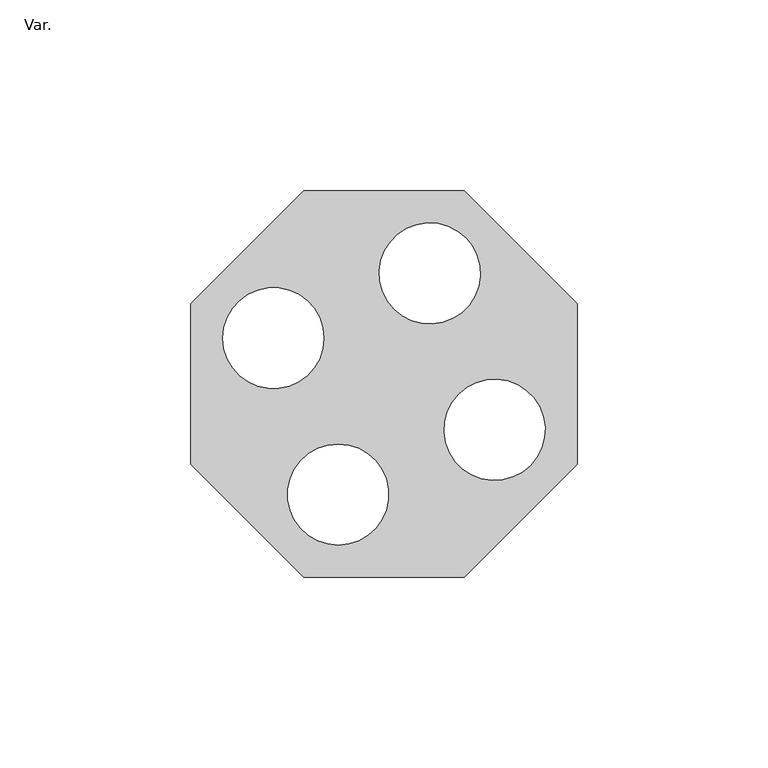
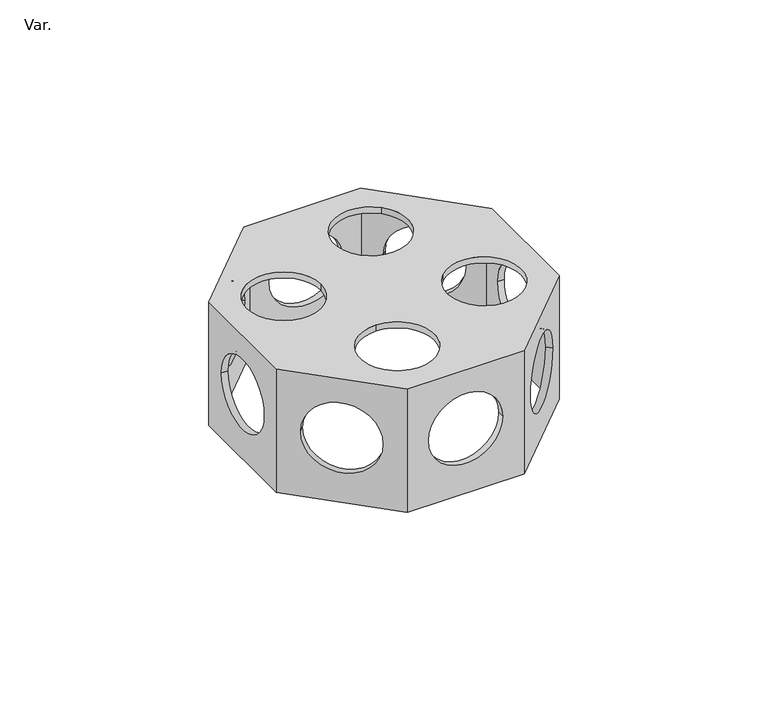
"""IFC4 building model written with IfcOpenShell, lengths in millimetres: cable carrier fitting geometry, AmancoWavin_ConduitFittings_CajaOctogonal : Var.."""

from ifc_helpers import new_model, si_unit, frame, origin, place, context, project, spatial, polyline, circle_curve, source, transform, mapped, element, save
from ifc_brep_helpers import plane_surface, revolved_surface, advanced_brep


def var_aeb41feb(model_context):
    return source(origin(), model_context, "Body", "AdvancedBrep", [
        advanced_brep(
        [(50.67, -20.9882012, 46.8), (50.67, 20.9882012, 46.8), (20.9882012, 50.67, 46.8), (-20.9882012, 50.67, 46.8), (-50.67, 20.9882012, 46.8), (-50.67, -20.9882012, 46.8), (-20.9882012, -50.67, 46.8), (20.9882012, -50.67, 46.8), (-42.2397123, 12.007932, 46.8), (-15.7397123, 12.007932, 46.8), (38.3588771, -21.3770968, 46.8), (19.6205474, -2.6387671, 46.8), (-12.007932, -42.2397123, 46.8), (-12.007932, -15.7397123, 46.8), (21.3770968, 38.3588771, 46.8), (2.6387671, 19.6205474, 46.8), (50.67, -20.9882012, 0.0), (20.9882012, -50.67, 0.0), (-20.9882012, -50.67, 0.0), (-50.67, -20.9882012, 0.0), (-50.67, 20.9882012, 0.0), (-20.9882012, 50.67, 0.0), (20.9882012, 50.67, 0.0), (50.67, 20.9882012, 0.0), (-48.37, 20.03551, 0.0), (-48.37, -20.03551, 0.0), (-20.03551, -48.37, 0.0), (20.03551, -48.37, 0.0), (48.37, -20.03551, 0.0), (48.37, 20.03551, 0.0), (20.03551, 48.37, 0.0), (-20.03551, 48.37, 0.0), (13.25, 50.67, 24.5), (-13.25, 50.67, 24.5), (-13.25, 48.37, 24.5), (13.25, 48.37, 24.5), (-13.25, -50.67, 24.5), (13.25, -50.67, 24.5), (13.25, -48.37, 24.5), (-13.25, -48.37, 24.5), (-42.2397123, 12.007932, 44.4971719), (-15.7397123, 12.007932, 44.4971719), (50.67, 13.25, 24.5), (50.67, -13.25, 24.5), (26.4599358, 45.1982655, 24.5), (45.1982655, 26.4599358, 24.5), (-45.1982655, 26.4599358, 24.5), (-26.4599358, 45.1982655, 24.5), (-50.67, -13.25, 24.5), (-50.67, 13.25, 24.5), (-26.4599358, -45.1982655, 24.5), (-45.1982655, -26.4599358, 24.5), (45.1982655, -26.4599358, 24.5), (26.4599358, -45.1982655, 24.5), (38.3588771, -21.3770968, 44.4971719), (19.6205474, -2.6387671, 44.4971719), (-12.007932, -42.2397123, 44.4971719), (-12.007932, -15.7397123, 44.4971719), (21.3770968, 38.3588771, 44.4971719), (2.6387671, 19.6205474, 44.4971719), (-48.37, 20.03551, 44.4971719), (-20.03551, 48.37, 44.4971719), (20.03551, 48.37, 44.4971719), (48.37, 20.03551, 44.4971719), (48.37, -20.03551, 44.4971719), (20.03551, -48.37, 44.4971719), (-20.03551, -48.37, 44.4971719), (-48.37, -20.03551, 44.4971719), (-48.37, 13.25, 24.5), (-48.37, -13.25, 24.5), (-43.5719199, -24.8335902, 24.5), (-24.8335902, -43.5719199, 24.5), (24.8335902, -43.5719199, 24.5), (43.5719199, -24.8335902, 24.5), (48.37, -13.25, 24.5), (48.37, 13.25, 24.5), (43.5719199, 24.8335902, 24.5), (24.8335902, 43.5719199, 24.5), (-24.8335902, 43.5719199, 24.5), (-43.5719199, 24.8335902, 24.5)],
        [
            (0, 1),
            (1, 2),
            (2, 3),
            (3, 4),
            (4, 5),
            (5, 6),
            (6, 7),
            (7, 0),
            (8, 9, circle_curve(frame((-28.9897123, 12.007932, 46.8), z_axis=(0.0, 0.0, -1.0), x_axis=(1.0, 0.0, 0.0)), 13.25)),
            (9, 8, circle_curve(frame((-28.9897123, 12.007932, 46.8), z_axis=(0.0, 0.0, -1.0), x_axis=(1.0, 0.0, 0.0)), 13.25)),
            (10, 11, circle_curve(frame((28.9897123, -12.007932, 46.8), z_axis=(0.0, 0.0, -1.0), x_axis=(-0.7071067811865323, 0.7071067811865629, 0.0)), 13.25)),
            (11, 10, circle_curve(frame((28.9897123, -12.007932, 46.8), z_axis=(0.0, 0.0, -1.0), x_axis=(-0.7071067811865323, 0.7071067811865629, 0.0)), 13.25)),
            (12, 13, circle_curve(frame((-12.007932, -28.9897123, 46.8), z_axis=(0.0, 0.0, -1.0), x_axis=(0.0, 1.0, 0.0)), 13.25)),
            (13, 12, circle_curve(frame((-12.007932, -28.9897123, 46.8), z_axis=(0.0, 0.0, -1.0), x_axis=(0.0, 1.0, 0.0)), 13.25)),
            (14, 15, circle_curve(frame((12.007932, 28.9897123, 46.8), z_axis=(0.0, 0.0, -1.0), x_axis=(-0.7071067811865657, -0.7071067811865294, 0.0)), 13.25)),
            (15, 14, circle_curve(frame((12.007932, 28.9897123, 46.8), z_axis=(0.0, 0.0, -1.0), x_axis=(-0.7071067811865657, -0.7071067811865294, 0.0)), 13.25)),
            (16, 17),
            (17, 18),
            (18, 19),
            (19, 20),
            (20, 21),
            (21, 22),
            (22, 23),
            (23, 16),
            (24, 25),
            (25, 26),
            (26, 27),
            (27, 28),
            (28, 29),
            (29, 30),
            (30, 31),
            (31, 24),
            (32, 33, circle_curve(frame((0.0, 50.67, 24.5), z_axis=(0.0, 1.0, 0.0), x_axis=(1.0, 0.0, 0.0)), 13.25)),
            (33, 34),
            (34, 35, circle_curve(frame((0.0, 48.37, 24.5), z_axis=(0.0, -1.0, 0.0), x_axis=(1.0, 0.0, 0.0)), 13.25)),
            (35, 32),
            (36, 37, circle_curve(frame((0.0, -50.67, 24.5), z_axis=(0.0, -1.0, 0.0), x_axis=(1.0, 0.0, 0.0)), 13.25)),
            (37, 38),
            (38, 39, circle_curve(frame((0.0, -48.37, 24.5), z_axis=(0.0, 1.0, 0.0), x_axis=(1.0, 0.0, 0.0)), 13.25)),
            (39, 36),
            (33, 32, circle_curve(frame((0.0, 50.67, 24.5), z_axis=(0.0, 1.0, 0.0), x_axis=(1.0, 0.0, 0.0)), 13.25)),
            (35, 34, circle_curve(frame((0.0, 48.37, 24.5), z_axis=(0.0, -1.0, 0.0), x_axis=(1.0, 0.0, 0.0)), 13.25)),
            (37, 36, circle_curve(frame((0.0, -50.67, 24.5), z_axis=(0.0, -1.0, 0.0), x_axis=(1.0, 0.0, 0.0)), 13.25)),
            (39, 38, circle_curve(frame((0.0, -48.37, 24.5), z_axis=(0.0, 1.0, 0.0), x_axis=(1.0, 0.0, 0.0)), 13.25)),
            (8, 40),
            (40, 41, circle_curve(frame((-28.9897123, 12.007932, 44.4971719), z_axis=(0.0, 0.0, -1.0), x_axis=(1.0, 0.0, 0.0)), 13.25)),
            (41, 9),
            (41, 40, circle_curve(frame((-28.9897123, 12.007932, 44.4971719), z_axis=(0.0, 0.0, -1.0), x_axis=(1.0, 0.0, 0.0)), 13.25)),
            (0, 16),
            (23, 1),
            (42, 43, circle_curve(frame((50.67, 0.0, 24.5), z_axis=(-1.0, 0.0, 0.0), x_axis=(0.0, 1.0, 0.0)), 13.25)),
            (43, 42, circle_curve(frame((50.67, 0.0, 24.5), z_axis=(-1.0, 0.0, 0.0), x_axis=(0.0, 1.0, 0.0)), 13.25)),
            (22, 2),
            (44, 45, circle_curve(frame((35.8291006, 35.8291006, 24.5), z_axis=(-0.7071067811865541, -0.707106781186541, 0.0), x_axis=(0.707106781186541, -0.7071067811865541, 0.0)), 13.25)),
            (45, 44, circle_curve(frame((35.8291006, 35.8291006, 24.5), z_axis=(-0.7071067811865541, -0.707106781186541, 0.0), x_axis=(0.707106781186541, -0.7071067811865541, 0.0)), 13.25)),
            (21, 3),
            (20, 4),
            (46, 47, circle_curve(frame((-35.8291006, 35.8291006, 24.5), z_axis=(0.7071067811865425, -0.7071067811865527, 0.0), x_axis=(-0.7071067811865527, -0.7071067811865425, 0.0)), 13.25)),
            (47, 46, circle_curve(frame((-35.8291006, 35.8291006, 24.5), z_axis=(0.7071067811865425, -0.7071067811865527, 0.0), x_axis=(-0.7071067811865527, -0.7071067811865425, 0.0)), 13.25)),
            (19, 5),
            (48, 49, circle_curve(frame((-50.67, 0.0, 24.5), z_axis=(1.0, 0.0, 0.0), x_axis=(0.0, 1.0, 0.0)), 13.25)),
            (49, 48, circle_curve(frame((-50.67, 0.0, 24.5), z_axis=(1.0, 0.0, 0.0), x_axis=(0.0, 1.0, 0.0)), 13.25)),
            (18, 6),
            (50, 51, circle_curve(frame((-35.8291006, -35.8291006, 24.5), z_axis=(0.7071067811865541, 0.707106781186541, 0.0), x_axis=(0.707106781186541, -0.7071067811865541, 0.0)), 13.25)),
            (51, 50, circle_curve(frame((-35.8291006, -35.8291006, 24.5), z_axis=(0.7071067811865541, 0.707106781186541, 0.0), x_axis=(0.707106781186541, -0.7071067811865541, 0.0)), 13.25)),
            (17, 7),
            (52, 53, circle_curve(frame((35.8291006, -35.8291006, 24.5), z_axis=(-0.7071067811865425, 0.7071067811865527, 0.0), x_axis=(-0.7071067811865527, -0.7071067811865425, 0.0)), 13.25)),
            (53, 52, circle_curve(frame((35.8291006, -35.8291006, 24.5), z_axis=(-0.7071067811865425, 0.7071067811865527, 0.0), x_axis=(-0.7071067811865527, -0.7071067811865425, 0.0)), 13.25)),
            (10, 54),
            (54, 55, circle_curve(frame((28.9897123, -12.007932, 44.4971719), z_axis=(0.0, 0.0, -1.0), x_axis=(-0.7071067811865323, 0.7071067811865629, 0.0)), 13.25)),
            (55, 11),
            (55, 54, circle_curve(frame((28.9897123, -12.007932, 44.4971719), z_axis=(0.0, 0.0, -1.0), x_axis=(-0.7071067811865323, 0.7071067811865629, 0.0)), 13.25)),
            (12, 56),
            (56, 57, circle_curve(frame((-12.007932, -28.9897123, 44.4971719), z_axis=(0.0, 0.0, -1.0), x_axis=(0.0, 1.0, 0.0)), 13.25)),
            (57, 13),
            (57, 56, circle_curve(frame((-12.007932, -28.9897123, 44.4971719), z_axis=(0.0, 0.0, -1.0), x_axis=(0.0, 1.0, 0.0)), 13.25)),
            (14, 58),
            (58, 59, circle_curve(frame((12.007932, 28.9897123, 44.4971719), z_axis=(0.0, 0.0, -1.0), x_axis=(-0.7071067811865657, -0.7071067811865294, 0.0)), 13.25)),
            (59, 15),
            (59, 58, circle_curve(frame((12.007932, 28.9897123, 44.4971719), z_axis=(0.0, 0.0, -1.0), x_axis=(-0.7071067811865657, -0.7071067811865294, 0.0)), 13.25)),
            (60, 61),
            (61, 62),
            (62, 63),
            (63, 64),
            (64, 65),
            (65, 66),
            (66, 67),
            (67, 60),
            (67, 25),
            (24, 60),
            (68, 69, circle_curve(frame((-48.37, 0.0, 24.5), z_axis=(-1.0, 0.0, 0.0), x_axis=(0.0, 1.0, 0.0)), 13.25)),
            (69, 68, circle_curve(frame((-48.37, 0.0, 24.5), z_axis=(-1.0, 0.0, 0.0), x_axis=(0.0, 1.0, 0.0)), 13.25)),
            (66, 26),
            (70, 71, circle_curve(frame((-34.202755, -34.202755, 24.5), z_axis=(-0.7071067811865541, -0.707106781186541, 0.0), x_axis=(0.707106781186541, -0.7071067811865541, 0.0)), 13.25)),
            (71, 70, circle_curve(frame((-34.202755, -34.202755, 24.5), z_axis=(-0.7071067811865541, -0.707106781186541, 0.0), x_axis=(0.707106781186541, -0.7071067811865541, 0.0)), 13.25)),
            (65, 27),
            (64, 28),
            (72, 73, circle_curve(frame((34.202755, -34.202755, 24.5), z_axis=(0.7071067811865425, -0.7071067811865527, 0.0), x_axis=(-0.7071067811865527, -0.7071067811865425, 0.0)), 13.25)),
            (73, 72, circle_curve(frame((34.202755, -34.202755, 24.5), z_axis=(0.7071067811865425, -0.7071067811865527, 0.0), x_axis=(-0.7071067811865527, -0.7071067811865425, 0.0)), 13.25)),
            (63, 29),
            (74, 75, circle_curve(frame((48.37, 0.0, 24.5), z_axis=(1.0, 0.0, 0.0), x_axis=(0.0, 1.0, 0.0)), 13.25)),
            (75, 74, circle_curve(frame((48.37, 0.0, 24.5), z_axis=(1.0, 0.0, 0.0), x_axis=(0.0, 1.0, 0.0)), 13.25)),
            (62, 30),
            (76, 77, circle_curve(frame((34.202755, 34.202755, 24.5), z_axis=(0.7071067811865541, 0.707106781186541, 0.0), x_axis=(0.707106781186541, -0.7071067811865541, 0.0)), 13.25)),
            (77, 76, circle_curve(frame((34.202755, 34.202755, 24.5), z_axis=(0.7071067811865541, 0.707106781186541, 0.0), x_axis=(0.707106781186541, -0.7071067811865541, 0.0)), 13.25)),
            (61, 31),
            (78, 79, circle_curve(frame((-34.202755, 34.202755, 24.5), z_axis=(-0.7071067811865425, 0.7071067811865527, 0.0), x_axis=(-0.7071067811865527, -0.7071067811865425, 0.0)), 13.25)),
            (79, 78, circle_curve(frame((-34.202755, 34.202755, 24.5), z_axis=(-0.7071067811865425, 0.7071067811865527, 0.0), x_axis=(-0.7071067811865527, -0.7071067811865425, 0.0)), 13.25)),
            (48, 69),
            (68, 49),
            (74, 43),
            (42, 75),
            (70, 51),
            (50, 71),
            (44, 77),
            (76, 45),
            (52, 73),
            (72, 53),
            (78, 47),
            (46, 79),
        ],
        [
            plane_surface(frame((-15.7397123, 12.007932, 46.8), z_axis=(0.0, 0.0, 1.0), x_axis=(0.0, -1.0, 0.0))),
            plane_surface(frame((-15.7397123, 12.007932, 0.0), z_axis=(0.0, 0.0, -1.0), x_axis=(0.0, 1.0, 0.0))),
            revolved_surface(polyline([(13.25, 48.37, 24.5), (13.25, 50.67, 24.5)]), (0.0, 50.67, 24.5), (0.0, -1.0, 0.0)),
            revolved_surface(polyline([(13.25, -50.67, 24.5), (13.25, -48.36999999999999, 24.5)]), (0.0, 50.67, 24.5), (0.0, -1.0, 0.0)),
            revolved_surface(polyline([(-15.7397123, 12.007932, 44.4971719), (-15.7397123, 12.007932, 46.8)]), (-28.9897123, 12.007932, 0.0), (0.0, 0.0, -1.0)),
            plane_surface(frame((50.67, -20.9882012, 46.8), z_axis=(1.0, 0.0, 0.0), x_axis=(0.0, 0.0, -1.0))),
            plane_surface(frame((50.67, 20.9882012, 46.8), z_axis=(0.7071067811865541, 0.7071067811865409, 0.0), x_axis=(0.0, 0.0, -1.0))),
            plane_surface(frame((20.9882012, 50.67, 46.8), z_axis=(0.0, 1.0, 0.0), x_axis=(0.0, 0.0, -1.0))),
            plane_surface(frame((-20.9882012, 50.67, 46.8), z_axis=(-0.7071067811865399, 0.7071067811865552, 0.0), x_axis=(0.0, 0.0, -1.0))),
            plane_surface(frame((-50.67, 20.9882012, 46.8), z_axis=(-1.0, 0.0, 0.0), x_axis=(0.0, 0.0, -1.0))),
            plane_surface(frame((-50.67, -20.9882012, 46.8), z_axis=(-0.707106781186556, -0.7071067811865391, 0.0), x_axis=(0.0, 0.0, -1.0))),
            plane_surface(frame((-20.9882012, -50.67, 46.8), z_axis=(0.0, -1.0, 0.0), x_axis=(0.0, 0.0, -1.0))),
            plane_surface(frame((20.9882012, -50.67, 46.8), z_axis=(0.7071067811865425, -0.7071067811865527, 0.0), x_axis=(0.0, 0.0, -1.0))),
            revolved_surface(polyline([(19.620547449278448, -2.638767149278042, 44.4971719), (19.620547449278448, -2.638767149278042, 46.8)]), (28.9897123, -12.007932, 0.0), (0.0, 0.0, -1.0)),
            revolved_surface(polyline([(-12.007932, -15.7397123, 44.4971719), (-12.007932, -15.7397123, 46.8)]), (-12.007932, -28.9897123, 0.0), (0.0, 0.0, -1.0)),
            revolved_surface(polyline([(2.6387671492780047, 19.620547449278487, 44.4971719), (2.6387671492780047, 19.620547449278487, 46.8)]), (12.007932, 28.9897123, 0.0), (0.0, 0.0, -1.0)),
            plane_surface(frame((-48.37, 20.03551, 44.4971719), z_axis=(0.0, 0.0, -1.0), x_axis=(0.0, -1.0, 0.0))),
            plane_surface(frame((-48.37, 20.03551, 44.4971719), z_axis=(1.0, 0.0, 0.0), x_axis=(0.0, 0.0, -1.0))),
            plane_surface(frame((-48.37, -20.03551, 44.4971719), z_axis=(0.7071067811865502, 0.7071067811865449, 0.0), x_axis=(0.0, 0.0, -1.0))),
            plane_surface(frame((-20.03551, -48.37, 44.4971719), z_axis=(0.0, 1.0, 0.0), x_axis=(0.0, 0.0, -1.0))),
            plane_surface(frame((20.03551, -48.37, 44.4971719), z_axis=(-0.7071067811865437, 0.7071067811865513, 0.0), x_axis=(0.0, 0.0, -1.0))),
            plane_surface(frame((48.37, -20.03551, 44.4971719), z_axis=(-1.0, 0.0, 0.0), x_axis=(0.0, 0.0, -1.0))),
            plane_surface(frame((48.37, 20.03551, 44.4971719), z_axis=(-0.7071067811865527, -0.7071067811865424, 0.0), x_axis=(0.0, 0.0, -1.0))),
            plane_surface(frame((20.03551, 48.37, 44.4971719), z_axis=(0.0, -1.0, 0.0), x_axis=(0.0, 0.0, -1.0))),
            plane_surface(frame((-20.03551, 48.37, 44.4971719), z_axis=(0.7071067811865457, -0.7071067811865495, 0.0), x_axis=(0.0, 0.0, -1.0))),
            revolved_surface(polyline([(-48.37, 13.25, 24.5), (-50.67, 13.25, 24.5)]), (-50.67, 0.0, 24.5), (1.0, 0.0, 0.0)),
            revolved_surface(polyline([(50.67, 13.25, 24.5), (48.36999999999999, 13.25, 24.5)]), (-50.67, 0.0, 24.5), (1.0, 0.0, 0.0)),
            revolved_surface(polyline([(-26.459935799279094, -45.19826550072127, 24.5), (-24.83359014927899, -43.57191985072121, 24.5)]), (35.8291006, 35.8291006, 24.5), (-0.7071067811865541, -0.707106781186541, 0.0)),
            revolved_surface(polyline([(43.571919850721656, 24.833590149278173, 24.5), (45.19826550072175, 26.45993579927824, 24.5)]), (35.8291006, 35.8291006, 24.5), (-0.7071067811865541, -0.707106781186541, 0.0)),
            revolved_surface(polyline([(24.83359014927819, -43.57191985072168, 24.5), (26.459935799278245, -45.19826550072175, 24.5)]), (35.8291006, -35.8291006, 24.5), (-0.7071067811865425, 0.7071067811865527, 0.0)),
            revolved_surface(polyline([(-45.19826550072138, 26.459935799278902, 24.5), (-43.57191985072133, 24.833590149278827, 24.5)]), (35.8291006, -35.8291006, 24.5), (-0.7071067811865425, 0.7071067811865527, 0.0)),
        ],
        [
            (0, [[1, 2, 3, 4, 5, 6, 7, 8], [9, 10], [11, 12], [13, 14], [15, 16]]),
            (1, [[17, 18, 19, 20, 21, 22, 23, 24], [25, 26, 27, 28, 29, 30, 31, 32]]),
            (2, [[33, 34, 35, 36]]),
            (3, [[37, 38, 39, 40]]),
            (2, [[41, -36, 42, -34]]),
            (3, [[43, -40, 44, -38]]),
            (4, [[-9, 45, 46, 47]]),
            (4, [[-10, -47, 48, -45]]),
            (5, [[-1, 49, -24, 50], [51, 52]]),
            (6, [[-2, -50, -23, 53], [54, 55]]),
            (7, [[-3, -53, -22, 56], [-33, -41]]),
            (8, [[-4, -56, -21, 57], [58, 59]]),
            (9, [[-5, -57, -20, 60], [61, 62]]),
            (10, [[-6, -60, -19, 63], [64, 65]]),
            (11, [[-7, -63, -18, 66], [-37, -43]]),
            (12, [[-8, -66, -17, -49], [67, 68]]),
            (13, [[-11, 69, 70, 71]]),
            (13, [[-12, -71, 72, -69]]),
            (14, [[-13, 73, 74, 75]]),
            (14, [[-14, -75, 76, -73]]),
            (15, [[-15, 77, 78, 79]]),
            (15, [[-16, -79, 80, -77]]),
            (16, [[81, 82, 83, 84, 85, 86, 87, 88], [-46, -48], [-70, -72], [-74, -76], [-78, -80]]),
            (17, [[-88, 89, -25, 90], [91, 92]]),
            (18, [[-87, 93, -26, -89], [94, 95]]),
            (19, [[-86, 96, -27, -93], [-39, -44]]),
            (20, [[-85, 97, -28, -96], [98, 99]]),
            (21, [[-84, 100, -29, -97], [101, 102]]),
            (22, [[-83, 103, -30, -100], [104, 105]]),
            (23, [[-82, 106, -31, -103], [-35, -42]]),
            (24, [[-81, -90, -32, -106], [107, 108]]),
            (25, [[109, -91, 110, -61]]),
            (26, [[111, -51, 112, -101]]),
            (25, [[-109, -62, -110, -92]]),
            (26, [[-111, -102, -112, -52]]),
            (27, [[113, -64, 114, -94]]),
            (28, [[115, -104, 116, -54]]),
            (27, [[-113, -95, -114, -65]]),
            (28, [[-115, -55, -116, -105]]),
            (29, [[117, -98, 118, -67]]),
            (30, [[119, -58, 120, -107]]),
            (29, [[-117, -68, -118, -99]]),
            (30, [[-119, -108, -120, -59]]),
        ],
    ),
    ])


if __name__ == "__main__":
    model = new_model("IFC4")
    model_context = context("Model", 3, world=origin())
    ifc_project = project(units=[si_unit("LENGTHUNIT", "METRE", prefix="MILLI")], contexts=[model_context])
    site = spatial("IfcSite", under=ifc_project)
    building = spatial("IfcBuilding", under=site)
    placement = place(None, origin())
    var_shape = var_aeb41feb(model_context)
    element("IfcCableCarrierFitting", 1, ObjectType="AmancoWavin_ConduitFittings_CajaOctogonal : Var.", at=placement, inside=building, context=model_context, shape_type="MappedRepresentation", body=[
        mapped(var_shape, transform((0.0, 0.0, 0.0), x_axis=(1.0, 0.0, 0.0), y_axis=(0.0, 1.0, 0.0), z_axis=(0.0, 0.0, 1.0))),
    ])
    save(model, "model.ifc")
